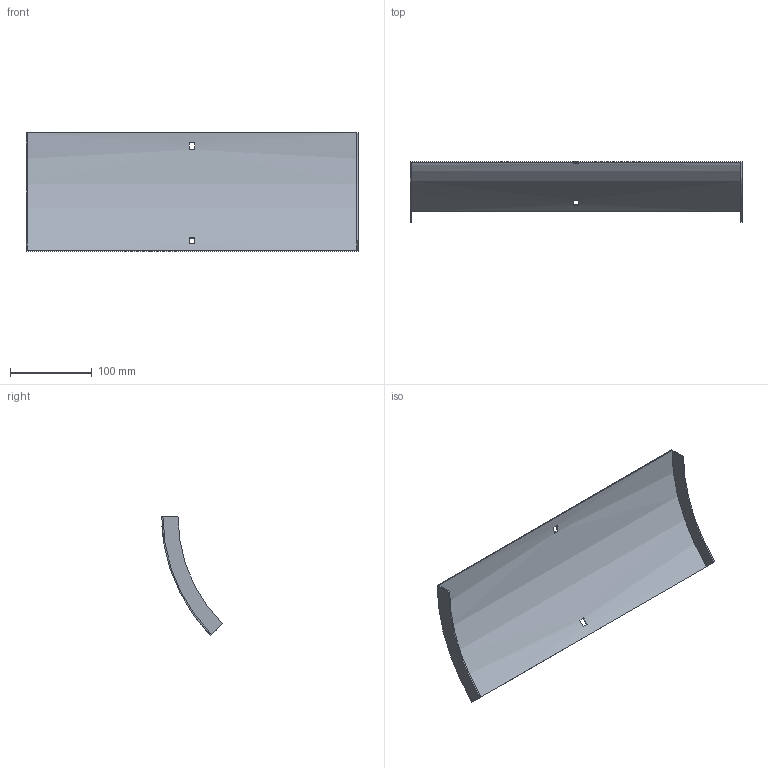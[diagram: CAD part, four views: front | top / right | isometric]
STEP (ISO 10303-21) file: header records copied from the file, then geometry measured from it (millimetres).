
FILE_DESCRIPTION (( 'STEP AP214' ), '1' );
FILE_NAME ('34N1D400.step', '2025-02-21T09:14:03', ( '' ), ( '' ), 'SwSTEP 2.0', 'SolidWorks 2023', '' );
FILE_SCHEMA (( 'AUTOMOTIVE_DESIGN' ));
Length unit declared in the file: millimetre
Products named in the file (1): 34N1D400
Bounding box: 407 x 74.33 x 145.31 mm (x, y, z)
Volume: 106487.7 mm3; surface area: 143847.7 mm2
Topology: 1 solids, 1 shells, 18 faces, 48 edges, 32 vertices
Faces by surface type: plane 14, cylinder 4
Entity records: 599 total; most frequent: DIRECTION 102, CARTESIAN_POINT 99, ORIENTED_EDGE 96, EDGE_CURVE 48, AXIS2_PLACEMENT_3D 35, LINE 32, VECTOR 32, VERTEX_POINT 32
